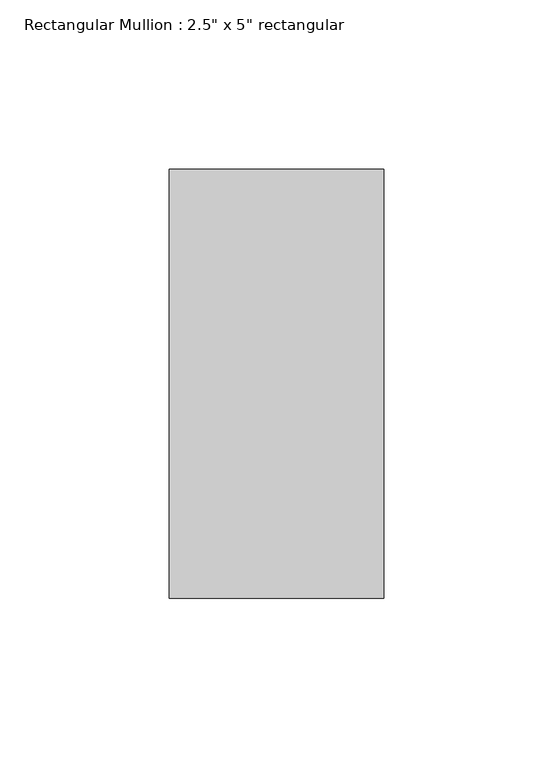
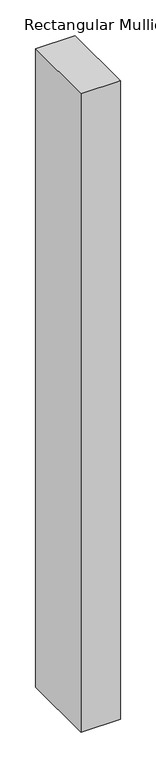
"""IFC4 building model written with IfcOpenShell, lengths in millimetres: member geometry."""

from ifc_helpers import new_model, si_unit, frame, origin, place, context, project, spatial, polyline, outline, extrude, source, transform, mapped, element, save


def member_3a9e26d9(model_context):
    return source(origin(), model_context, "Body", "SweptSolid", [
        extrude(outline(polyline([(31.75, 50.8), (31.75, -76.2), (-31.75, -76.2), (-31.75, 50.8), (31.75, 50.8)])), frame((0.0, 0.0, -1088.23125), z_axis=(0.0, 0.0, 1.0), x_axis=(1.0, 0.0, 0.0)), (0.0, 0.0, 1.0), 1088.23125),
    ])


if __name__ == "__main__":
    model = new_model("IFC4")
    model_context = context("Model", 3, world=origin())
    ifc_project = project(units=[si_unit("LENGTHUNIT", "METRE", prefix="MILLI")], contexts=[model_context])
    site = spatial("IfcSite", under=ifc_project)
    building = spatial("IfcBuilding", under=site)
    placement = place(None, origin())
    member_shape = member_3a9e26d9(model_context)
    element("IfcMember", 1, ObjectType="Rectangular Mullion : 2.5\" x 5\" rectangular", at=placement, inside=building, context=model_context, shape_type="MappedRepresentation", body=[
        mapped(member_shape, transform((0.0, 0.0, 0.0), x_axis=(1.0, 0.0, 0.0), y_axis=(0.0, 1.0, 0.0), z_axis=(0.0, 0.0, 1.0))),
    ])
    save(model, "model.ifc")
